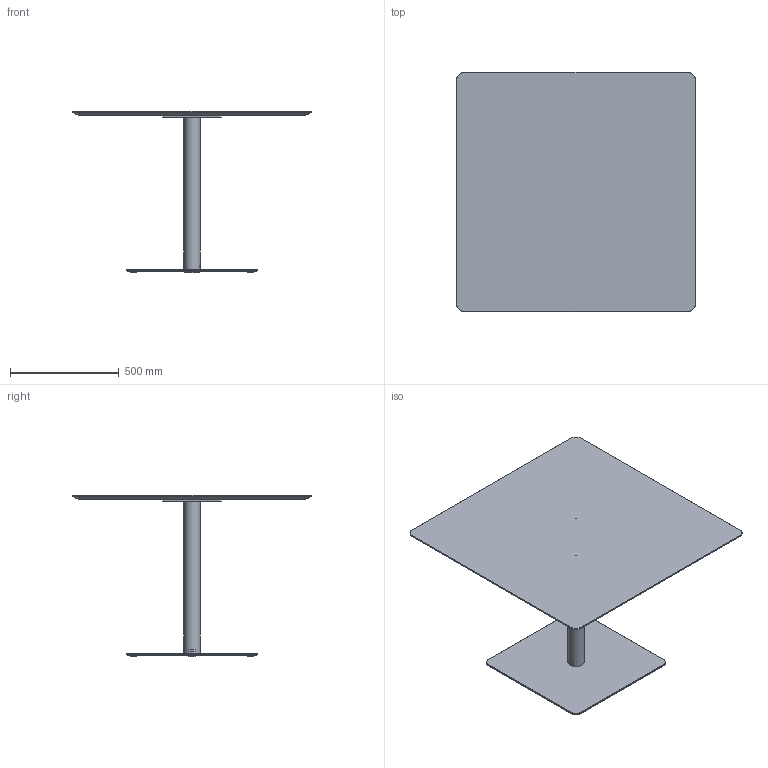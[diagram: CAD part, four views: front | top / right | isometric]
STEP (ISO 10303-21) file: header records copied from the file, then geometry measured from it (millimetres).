
FILE_DESCRIPTION( ('This file contains a STEP AP42 implementation' ,'as created by ZW3D STEP Interface translator.') ,'2;1' );
FILE_NAME( 'Henri - B_Carré - F3 - M5 - 1100 x 1100 x 750.stp' ,'24 912.171816', (''), ('ZWCAD Software Co.'), 'Version 1.0', 'ZW3D to STEP translator', '' );
FILE_SCHEMA(('AUTOMOTIVE_DESIGN { 1 0 10303 214 1 1 1 1 }'));
Length unit declared in the file: millimetre
Products named in the file (14): 0; PIED BISTROT PARAMETRIQUE_; COLONNE ACIER Ø76 V.02_; TUB-D076-02_; PLA-R76B-01_; CROIX ACIER 370 V.02_; CRX-X370-02_; SOCLE ACIER L 600x600 V.02_; SCL-R600-02_; PLA-R30A-01_; PLA-R30A-01; WUERTH 0276063020 Euro-screw 6.3x2 Verzinkt_; PLATEAU BISTROT PARAMETRIQUE_; insert_m6_13_
Assembly tree (22 placements, depth 3):
  0
  PIED BISTROT PARAMETRIQUE_
    COLONNE ACIER Ø76 V.02_
      TUB-D076-02_
      PLA-R76B-01_  x2
    CROIX ACIER 370 V.02_
      CRX-X370-02_
    SOCLE ACIER L 600x600 V.02_
      SCL-R600-02_
      PLA-R30A-01_
      PLA-R30A-01  x3
    WUERTH 0276063020 Euro-screw 6.3x2 Verzinkt_
    PLATEAU BISTROT PARAMETRIQUE_
      insert_m6_13_  x8
Bounding box: 1100 x 1100 x 744 mm (x, y, z)
Volume: 27150262.8 mm3; surface area: 3709299.3 mm2
Topology: 19 solids, 19 shells, 537 faces, 1310 edges, 822 vertices
Faces by surface type: plane 262, bspline 121, cylinder 98, cone 55, torus 1
Full cylindrical faces by diameter (mm): 4.88 x1, 6 x8, 6.3 x1, 8 x45, 12 x2, 14 x2, 30 x4, 72 x1, 76 x1
Entity records: 12310 total; most frequent: CARTESIAN_POINT 3396, ORIENTED_EDGE 1624, DIRECTION 1519, EDGE_CURVE 812, VERTEX_POINT 518, VECTOR 513, LINE 513, AXIS2_PLACEMENT_3D 503
